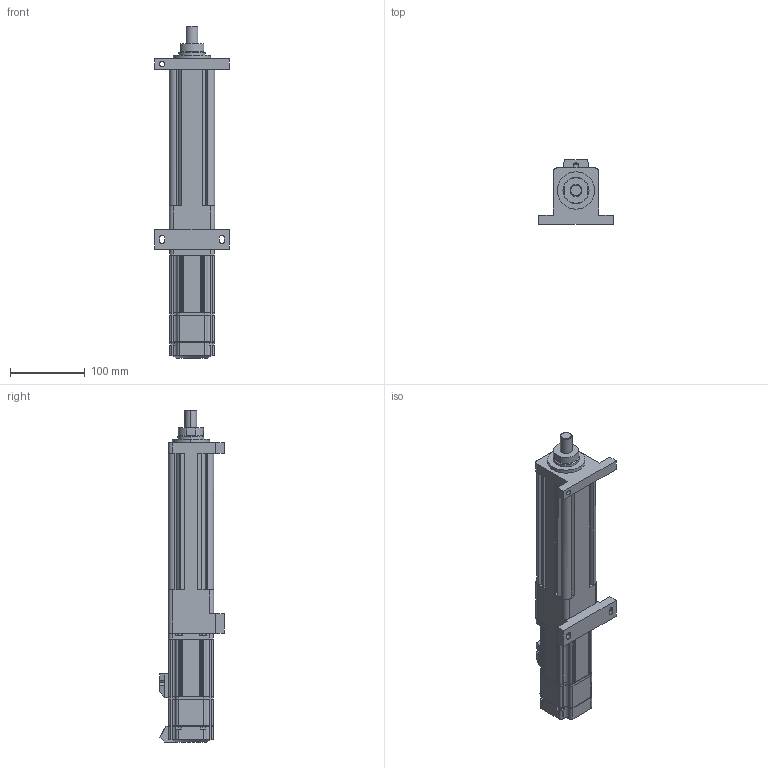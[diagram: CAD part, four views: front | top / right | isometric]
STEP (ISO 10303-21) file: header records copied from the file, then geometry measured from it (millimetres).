
FILE_DESCRIPTION (( 'STEP AP203' ), '1' );
FILE_NAME ('S2眻盄耜醱假蚾.STEP', '2024-05-27T05:13:23', ( '' ), ( '' ), 'SwSTEP 2.0', 'SolidWorks 2018', '' );
FILE_SCHEMA (( 'CONFIG_CONTROL_DESIGN' ));
Length unit declared in the file: millimetre
Products named in the file (3): S2眻盄耜醱假蚾; 陓豎400W 湍价陬; S2眻盄耜醱
Assembly tree (2 placements, depth 2):
  S2眻盄耜醱假蚾
    S2眻盄耜醱
    陓豎400W 湍价陬
Bounding box: 100 x 87 x 445 mm (x, y, z)
Volume: 552327.7 mm3; surface area: 225061.1 mm2
Topology: 1 solids, 28 shells, 735 faces, 2107 edges, 1433 vertices
Faces by surface type: plane 367, cylinder 347, cone 13, torus 8
Entity records: 24485 total; most frequent: DIRECTION 4427, CARTESIAN_POINT 4381, ORIENTED_EDGE 3718, EDGE_CURVE 2107, AXIS2_PLACEMENT_3D 1595, VERTEX_POINT 1433, LINE 1237, VECTOR 1237
